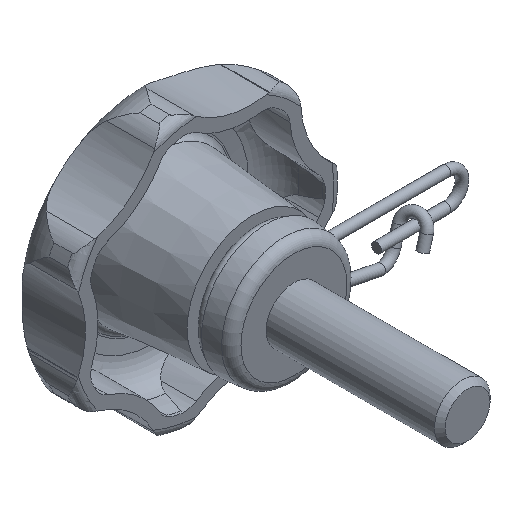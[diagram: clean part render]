
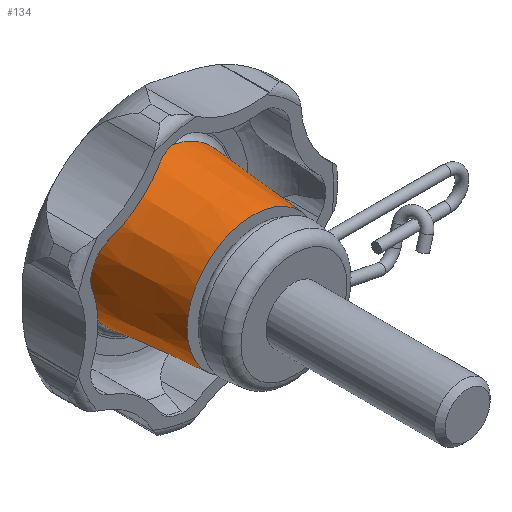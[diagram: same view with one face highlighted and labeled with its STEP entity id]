
A CAD part, isometric view. The second image highlights one B-rep face of the part: STEP entity #134.
In plain terms, the highlighted conical face has half-angle 5 degrees and reference radius 10.661 mm.
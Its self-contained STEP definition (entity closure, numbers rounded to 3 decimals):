
#134 = ADVANCED_FACE( '', ( #326, #327 ), #328, .T. );
#326 = FACE_BOUND( '', #583, .T. );
#327 = FACE_OUTER_BOUND( '', #584, .T. );
#328 = CONICAL_SURFACE( '', #585, 10.661, 0.087 );
#583 = EDGE_LOOP( '', ( #1171 ) );
#584 = EDGE_LOOP( '', ( #1172 ) );
#585 = AXIS2_PLACEMENT_3D( '', #1173, #1174, #1175 );
#1171 = ORIENTED_EDGE( '', *, *, #1816, .F. );
#1172 = ORIENTED_EDGE( '', *, *, #1817, .T. );
#1173 = CARTESIAN_POINT( '', ( 0., 19.465, 0. ) );
#1174 = DIRECTION( '', ( 0., 1., 0. ) );
#1175 = DIRECTION( '', ( -1., 0., 0. ) );
#1816 = EDGE_CURVE( '', #2260, #2260, #2261, .T. );
#1817 = EDGE_CURVE( '', #2262, #2262, #2263, .T. );
#2260 = VERTEX_POINT( '', #3609 );
#2261 = CIRCLE( '', #3610, 9.474 );
#2262 = VERTEX_POINT( '', #3611 );
#2263 = CIRCLE( '', #3612, 10.661 );
#3609 = CARTESIAN_POINT( '', ( 9.474, 5.9, 0. ) );
#3610 = AXIS2_PLACEMENT_3D( '', #4112, #4113, #4114 );
#3611 = CARTESIAN_POINT( '', ( 10.661, 19.465, 0. ) );
#3612 = AXIS2_PLACEMENT_3D( '', #4115, #4116, #4117 );
#4112 = CARTESIAN_POINT( '', ( 0., 5.9, 0. ) );
#4113 = DIRECTION( '', ( 0., -1., 0. ) );
#4114 = DIRECTION( '', ( 1., 0., 0. ) );
#4115 = CARTESIAN_POINT( '', ( 0., 19.465, 0. ) );
#4116 = DIRECTION( '', ( 0., -1., 0. ) );
#4117 = DIRECTION( '', ( 1., 0., 0. ) );
